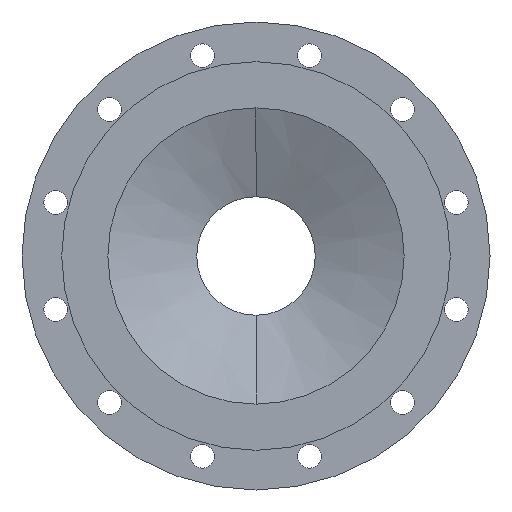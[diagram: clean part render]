
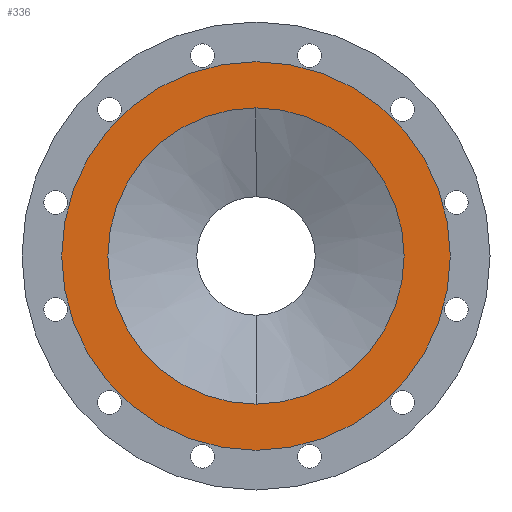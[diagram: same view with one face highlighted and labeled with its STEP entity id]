
A CAD part, left-side view. The second image highlights one B-rep face of the part: STEP entity #336.
In plain terms, the highlighted planar face has unit normal (-1, 0, 0).
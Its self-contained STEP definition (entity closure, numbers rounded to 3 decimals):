
#336=ADVANCED_FACE('',(#712,#713),#714,.F.);
#712=FACE_BOUND('',#1273,.T.);
#713=FACE_OUTER_BOUND('',#1274,.T.);
#714=PLANE('',#1275);
#1273=EDGE_LOOP('',(#1741,#1742));
#1274=EDGE_LOOP('',(#1743,#1744));
#1275=AXIS2_PLACEMENT_3D('',#1745,#1746,#1747);
#1741=ORIENTED_EDGE('',*,*,#2878,.T.);
#1742=ORIENTED_EDGE('',*,*,#2879,.T.);
#1743=ORIENTED_EDGE('',*,*,#2880,.F.);
#1744=ORIENTED_EDGE('',*,*,#2881,.F.);
#1745=CARTESIAN_POINT('',(0.0,0.0,0.));
#1746=DIRECTION('',(1.0,0.0,0.));
#1747=DIRECTION('',(0.,0.0,-1.0));
#2878=EDGE_CURVE('',#3337,#3338,#3339,.T.);
#2879=EDGE_CURVE('',#3338,#3337,#3340,.T.);
#2880=EDGE_CURVE('',#3341,#3342,#3343,.T.);
#2881=EDGE_CURVE('',#3342,#3341,#3344,.T.);
#3337=VERTEX_POINT('',#3988);
#3338=VERTEX_POINT('',#3989);
#3339=CIRCLE('',#3990,125.0);
#3340=CIRCLE('',#3991,125.0);
#3341=VERTEX_POINT('',#3992);
#3342=VERTEX_POINT('',#3993);
#3343=CIRCLE('',#3994,164.0);
#3344=CIRCLE('',#3995,164.0);
#3988=CARTESIAN_POINT('',(0.,0.0,-125.0));
#3989=CARTESIAN_POINT('',(0.,0.,125.0));
#3990=AXIS2_PLACEMENT_3D('',#4809,#4810,#4811);
#3991=AXIS2_PLACEMENT_3D('',#4812,#4813,#4814);
#3992=CARTESIAN_POINT('',(0.,0.0,-164.0));
#3993=CARTESIAN_POINT('',(0.,0.,164.0));
#3994=AXIS2_PLACEMENT_3D('',#4815,#4816,#4817);
#3995=AXIS2_PLACEMENT_3D('',#4818,#4819,#4820);
#4809=CARTESIAN_POINT('',(0.0,0.0,0.0));
#4810=DIRECTION('',(1.0,0.0,0.));
#4811=DIRECTION('',(0.,0.0,-1.0));
#4812=CARTESIAN_POINT('',(0.0,0.0,0.0));
#4813=DIRECTION('',(1.0,0.0,0.));
#4814=DIRECTION('',(0.,0.0,-1.0));
#4815=CARTESIAN_POINT('',(0.0,0.0,0.));
#4816=DIRECTION('',(1.0,0.0,0.));
#4817=DIRECTION('',(0.,0.0,-1.0));
#4818=CARTESIAN_POINT('',(0.0,0.0,0.));
#4819=DIRECTION('',(1.0,0.0,0.));
#4820=DIRECTION('',(0.,0.0,-1.0));
